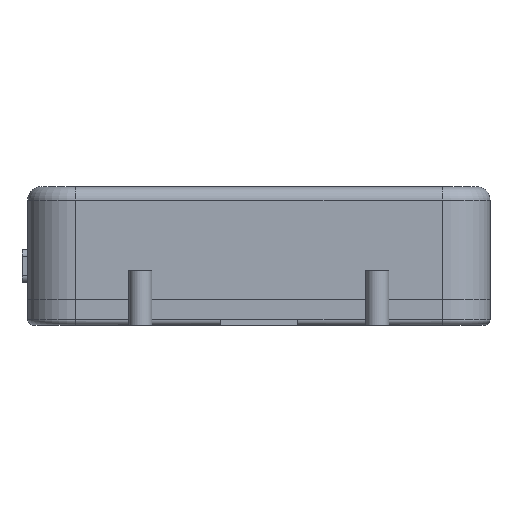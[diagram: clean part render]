
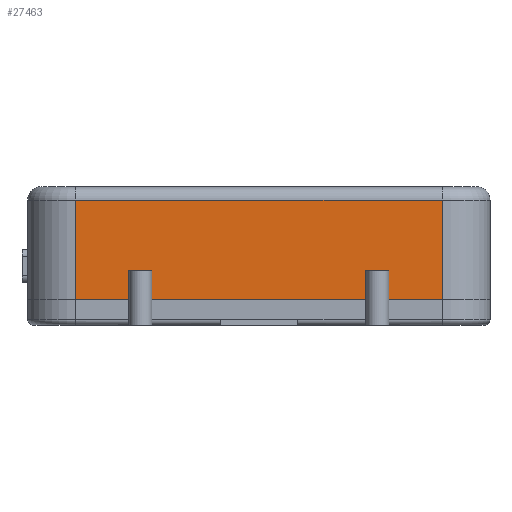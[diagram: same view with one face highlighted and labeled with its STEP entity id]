
A CAD part, front view. The second image highlights one B-rep face of the part: STEP entity #27463.
In plain terms, the highlighted planar face has unit normal (0, -1, 0).
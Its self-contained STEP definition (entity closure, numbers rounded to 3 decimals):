
#994=PLANE('',#28713);
#2455=FACE_OUTER_BOUND('',#4059,.T.);
#4059=EDGE_LOOP('',(#22500,#22501,#22502,#22503,#22504,#22505,#22506,#22507,
#22508,#22509,#22510,#22511));
#6151=LINE('',#46439,#9132);
#6155=LINE('',#46447,#9136);
#6159=LINE('',#46455,#9140);
#6172=LINE('',#46490,#9153);
#6173=LINE('',#46493,#9154);
#6175=LINE('',#46496,#9156);
#6176=LINE('',#46499,#9157);
#6177=LINE('',#46501,#9158);
#6178=LINE('',#46502,#9159);
#6179=LINE('',#46504,#9160);
#6180=LINE('',#46506,#9161);
#6181=LINE('',#46507,#9162);
#9132=VECTOR('',#31734,10.);
#9136=VECTOR('',#31738,10.);
#9140=VECTOR('',#31742,10.);
#9153=VECTOR('',#31771,10.);
#9154=VECTOR('',#31774,10.);
#9156=VECTOR('',#31778,10.);
#9157=VECTOR('',#31781,10.);
#9158=VECTOR('',#31782,10.);
#9159=VECTOR('',#31783,10.);
#9160=VECTOR('',#31784,10.);
#9161=VECTOR('',#31785,10.);
#9162=VECTOR('',#31786,10.);
#13051=VERTEX_POINT('',#46436);
#13052=VERTEX_POINT('',#46438);
#13055=VERTEX_POINT('',#46444);
#13056=VERTEX_POINT('',#46446);
#13059=VERTEX_POINT('',#46452);
#13060=VERTEX_POINT('',#46454);
#13074=VERTEX_POINT('',#46488);
#13075=VERTEX_POINT('',#46492);
#13076=VERTEX_POINT('',#46498);
#13077=VERTEX_POINT('',#46500);
#13078=VERTEX_POINT('',#46503);
#13079=VERTEX_POINT('',#46505);
#16387=EDGE_CURVE('',#13052,#13051,#6151,.T.);
#16391=EDGE_CURVE('',#13056,#13055,#6155,.T.);
#16395=EDGE_CURVE('',#13060,#13059,#6159,.T.);
#16414=EDGE_CURVE('',#13055,#13074,#6172,.T.);
#16415=EDGE_CURVE('',#13075,#13052,#6173,.T.);
#16417=EDGE_CURVE('',#13074,#13075,#6175,.T.);
#16418=EDGE_CURVE('',#13076,#13051,#6176,.T.);
#16419=EDGE_CURVE('',#13077,#13076,#6177,.T.);
#16420=EDGE_CURVE('',#13060,#13077,#6178,.T.);
#16421=EDGE_CURVE('',#13059,#13078,#6179,.T.);
#16422=EDGE_CURVE('',#13078,#13079,#6180,.T.);
#16423=EDGE_CURVE('',#13079,#13056,#6181,.T.);
#22500=ORIENTED_EDGE('',*,*,#16414,.T.);
#22501=ORIENTED_EDGE('',*,*,#16417,.T.);
#22502=ORIENTED_EDGE('',*,*,#16415,.T.);
#22503=ORIENTED_EDGE('',*,*,#16387,.T.);
#22504=ORIENTED_EDGE('',*,*,#16418,.F.);
#22505=ORIENTED_EDGE('',*,*,#16419,.F.);
#22506=ORIENTED_EDGE('',*,*,#16420,.F.);
#22507=ORIENTED_EDGE('',*,*,#16395,.T.);
#22508=ORIENTED_EDGE('',*,*,#16421,.T.);
#22509=ORIENTED_EDGE('',*,*,#16422,.T.);
#22510=ORIENTED_EDGE('',*,*,#16423,.T.);
#22511=ORIENTED_EDGE('',*,*,#16391,.T.);
#27463=ADVANCED_FACE('',(#2455),#994,.T.);
#28713=AXIS2_PLACEMENT_3D('',#46497,#31779,#31780);
#31734=DIRECTION('',(1.,0.,0.));
#31738=DIRECTION('',(1.,0.,0.));
#31742=DIRECTION('',(1.,0.,0.));
#31771=DIRECTION('',(0.,0.,1.));
#31774=DIRECTION('',(0.,0.,-1.));
#31778=DIRECTION('',(1.,0.,0.));
#31779=DIRECTION('center_axis',(0.,-1.,0.));
#31780=DIRECTION('ref_axis',(1.,0.,0.));
#31781=DIRECTION('',(0.,0.,-1.));
#31782=DIRECTION('',(1.,0.,0.));
#31783=DIRECTION('',(0.,0.,1.));
#31784=DIRECTION('',(0.,0.,1.));
#31785=DIRECTION('',(1.,0.,0.));
#31786=DIRECTION('',(0.,0.,-1.));
#46436=CARTESIAN_POINT('',(19.2,-27.5,-6.5));
#46438=CARTESIAN_POINT('',(13.6,-27.5,-6.5));
#46439=CARTESIAN_POINT('',(-24.2,-27.5,-6.5));
#46444=CARTESIAN_POINT('',(11.2,-27.5,-6.5));
#46446=CARTESIAN_POINT('',(-11.2,-27.5,-6.5));
#46447=CARTESIAN_POINT('',(-24.2,-27.5,-6.5));
#46452=CARTESIAN_POINT('',(-13.6,-27.5,-6.5));
#46454=CARTESIAN_POINT('',(-19.2,-27.5,-6.5));
#46455=CARTESIAN_POINT('',(-24.2,-27.5,-6.5));
#46488=CARTESIAN_POINT('',(11.2,-27.5,-3.5));
#46490=CARTESIAN_POINT('',(11.2,-27.5,-6.5));
#46492=CARTESIAN_POINT('',(13.6,-27.5,-3.5));
#46493=CARTESIAN_POINT('',(13.6,-27.5,-6.5));
#46496=CARTESIAN_POINT('',(-5.9,-27.5,-3.5));
#46497=CARTESIAN_POINT('Origin',(-24.2,-27.5,-6.5));
#46498=CARTESIAN_POINT('',(19.2,-27.5,3.9));
#46499=CARTESIAN_POINT('',(19.2,-27.5,-6.5));
#46500=CARTESIAN_POINT('',(-19.2,-27.5,3.9));
#46501=CARTESIAN_POINT('',(-12.1,-27.5,3.9));
#46502=CARTESIAN_POINT('',(-19.2,-27.5,-6.5));
#46503=CARTESIAN_POINT('',(-13.6,-27.5,-3.5));
#46504=CARTESIAN_POINT('',(-13.6,-27.5,-6.5));
#46505=CARTESIAN_POINT('',(-11.2,-27.5,-3.5));
#46506=CARTESIAN_POINT('',(-18.3,-27.5,-3.5));
#46507=CARTESIAN_POINT('',(-11.2,-27.5,-6.5));
